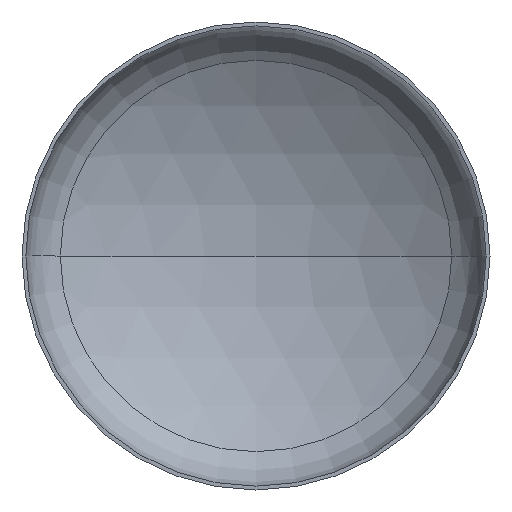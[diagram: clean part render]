
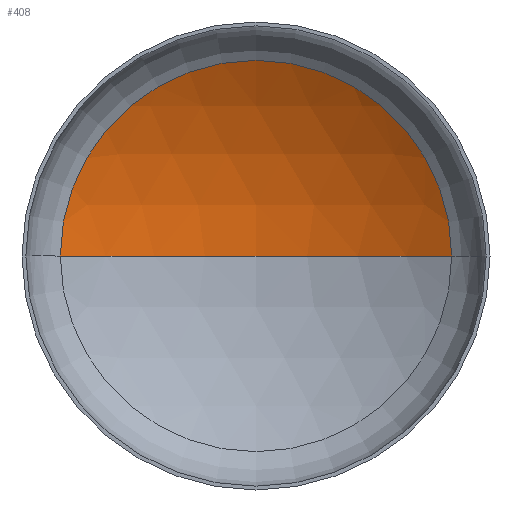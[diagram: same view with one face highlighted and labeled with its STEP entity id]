
A CAD part, front view. The second image highlights one B-rep face of the part: STEP entity #408.
In plain terms, the highlighted spherical face has radius 880 mm.
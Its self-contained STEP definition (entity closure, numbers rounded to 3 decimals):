
#7 = EDGE_LOOP ( 'NONE', ( #32, #22, #120 ) ) ;
#13 = VERTEX_POINT ( 'NONE', #292 ) ;
#22 = ORIENTED_EDGE ( 'NONE', *, *, #145, .T. ) ;
#32 = ORIENTED_EDGE ( 'NONE', *, *, #147, .F. ) ;
#40 = AXIS2_PLACEMENT_3D ( 'NONE', #218, #255, #254 ) ;
#45 = AXIS2_PLACEMENT_3D ( 'NONE', #192, #205, #206 ) ;
#48 = AXIS2_PLACEMENT_3D ( 'NONE', #267, #221, #375 ) ;
#59 = VERTEX_POINT ( 'NONE', #285 ) ;
#94 = VERTEX_POINT ( 'NONE', #234 ) ;
#120 = ORIENTED_EDGE ( 'NONE', *, *, #143, .T. ) ;
#143 = EDGE_CURVE ( 'NONE', #59, #94, #261, .T. ) ;
#145 = EDGE_CURVE ( 'NONE', #13, #59, #199, .T. ) ;
#146 = SPHERICAL_SURFACE ( 'NONE', #344, 880. ) ;
#147 = EDGE_CURVE ( 'NONE', #13, #94, #390, .T. ) ;
#192 = CARTESIAN_POINT ( 'NONE',  ( 0., -575.359, 0. ) ) ;
#199 = CIRCLE ( 'NONE', #45, 880. ) ;
#205 = DIRECTION ( 'NONE',  ( 0., 0., -1. ) ) ;
#206 = DIRECTION ( 'NONE',  ( -1., 0., 0. ) ) ;
#218 = CARTESIAN_POINT ( 'NONE',  ( 0., -575.359, 0. ) ) ;
#221 = DIRECTION ( 'NONE',  ( 0., -1., 0. ) ) ;
#234 = CARTESIAN_POINT ( 'NONE',  ( -459.831, 174.945, 0. ) ) ;
#254 = DIRECTION ( 'NONE',  ( 1., 0., 0. ) ) ;
#255 = DIRECTION ( 'NONE',  ( 0., 0., 1. ) ) ;
#261 = CIRCLE ( 'NONE', #48, 459.831 ) ;
#267 = CARTESIAN_POINT ( 'NONE',  ( 0., 174.945, 0. ) ) ;
#285 = CARTESIAN_POINT ( 'NONE',  ( 459.831, 174.945, 0. ) ) ;
#292 = CARTESIAN_POINT ( 'NONE',  ( 0., 304.641, 0. ) ) ;
#321 = DIRECTION ( 'NONE',  ( -1., 0., 0. ) ) ;
#324 = DIRECTION ( 'NONE',  ( 0., 0., -1. ) ) ;
#344 = AXIS2_PLACEMENT_3D ( 'NONE', #352, #324, #321 ) ;
#352 = CARTESIAN_POINT ( 'NONE',  ( 0., -575.359, 0. ) ) ;
#375 = DIRECTION ( 'NONE',  ( 1., 0., 0. ) ) ;
#390 = CIRCLE ( 'NONE', #40, 880. ) ;
#402 = FACE_OUTER_BOUND ( 'NONE', #7, .T. ) ;
#408 = ADVANCED_FACE ( 'NONE', ( #402 ), #146, .F. ) ;
